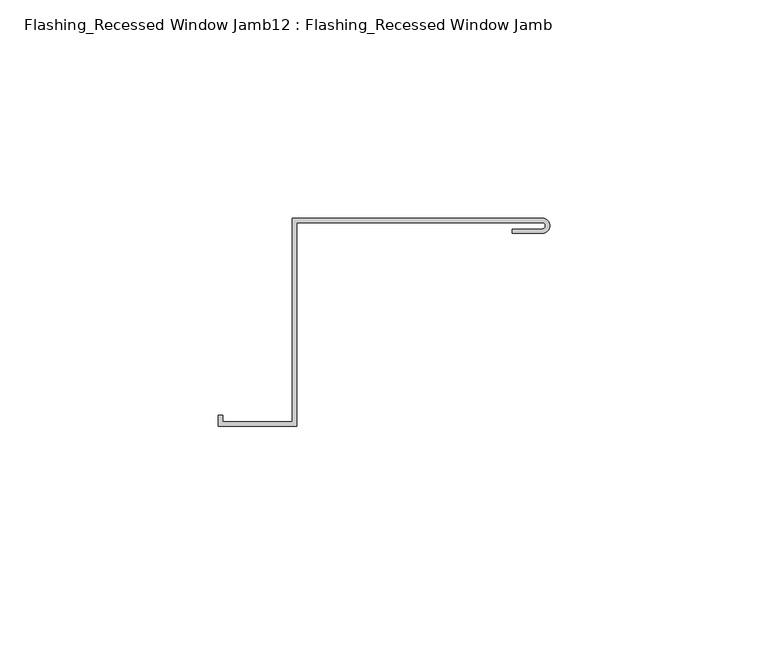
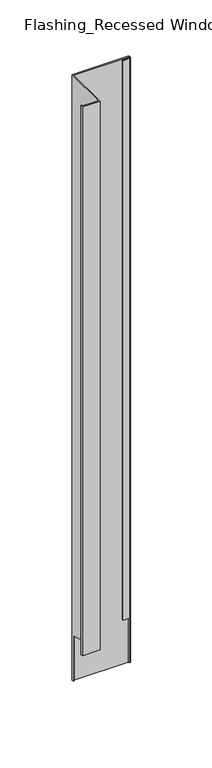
"""IFC4 building model written with IfcOpenShell, lengths in millimetres: proxy geometry, Flashing_Recessed Window Jamb12 : Flashing_Recessed Window Jamb."""

import ifcopenshell
import ifcopenshell.guid

model = None  # the IFC model being written
_history = None  # IfcOwnerHistory: only IFC2X3 demands one
_inside = {}  # id of a spatial element -> (the spatial element, [elements in it])
_under = {}  # id of a project, library or spatial element -> (it, [spatial elements below it])
_declared = {}  # id of a project -> (the project, [libraries it declares])
_typed = {}  # id of a type object -> (the type object, [elements of that type])
_made_of = {}  # id of a material, layer set ... -> (it, [elements and type objects made of it])


def new_model(schema):
    """Start an empty IFC model of exactly this schema.

    Asked for "IFC4X3", IfcOpenShell would pick the latest addendum, in which some entities
    have other attributes; the version numbers below select the first issue.
    IFC2X3 requires an IfcOwnerHistory on every rooted entity: one is made here for all.
    """
    global model, _history
    if schema == "IFC4X3":
        model = ifcopenshell.file(schema_version=(4, 3, 0, 0))
    else:
        model = ifcopenshell.file(schema=schema)
    _inside.clear()
    _under.clear()
    _declared.clear()
    _typed.clear()
    _made_of.clear()
    _history = None
    if model.schema == "IFC2X3":
        org = make("IfcOrganization", Name="unknown")
        user = make(
            "IfcPersonAndOrganization",
            ThePerson=make("IfcPerson", FamilyName="unknown"),
            TheOrganization=org,
        )
        app = make(
            "IfcApplication",
            ApplicationDeveloper=org,
            Version="unknown",
            ApplicationFullName="unknown",
            ApplicationIdentifier="unknown",
        )
        _history = make(
            "IfcOwnerHistory",
            OwningUser=user,
            OwningApplication=app,
            ChangeAction="ADDED",
            CreationDate=0,
        )
    return model


def make(cls, **values):
    """One entity of the class cls with the attributes given. An attribute that is None is left unset."""
    return model.create_entity(
        cls, **{name: value for name, value in values.items() if value is not None}
    )


def rooted(cls, **values):
    """An entity with a GlobalId (a new one), such as an element, a storey or a relation."""
    return make(cls, GlobalId=ifcopenshell.guid.new(), OwnerHistory=_history, **values)


def si_unit(unit_type, name, prefix=None):
    """IfcSIUnit, for example si_unit("LENGTHUNIT", "METRE", prefix="MILLI")."""
    return make("IfcSIUnit", UnitType=unit_type, Prefix=prefix, Name=name)


def assignment(units):
    """IfcUnitAssignment: the units of a project."""
    return None if units is None else make("IfcUnitAssignment", Units=units)


def point(xyz):
    """IfcCartesianPoint."""
    return None if xyz is None else make("IfcCartesianPoint", Coordinates=xyz)


def direction(xyz):
    """IfcDirection."""
    return None if xyz is None else make("IfcDirection", DirectionRatios=xyz)


def frame(location, z_axis=None, x_axis=None):
    """IfcAxis2Placement3D, a coordinate frame: its origin and axes. An axis left out is left unset."""
    return make(
        "IfcAxis2Placement3D",
        Location=point(location),
        Axis=direction(z_axis),
        RefDirection=direction(x_axis),
    )


def origin():
    """The frame at (0, 0, 0) with its axes left unset."""
    return frame((0.0, 0.0, 0.0))


def place(relative_to, where):
    """IfcLocalPlacement: puts the frame where relative to a parent placement (None: the world)."""
    return make(
        "IfcLocalPlacement", PlacementRelTo=relative_to, RelativePlacement=where
    )


def context(
    kind, dimensions, precision=None, world=None, true_north=None, identifier=None
):
    """IfcGeometricRepresentationContext, for example the 3D "Model" context."""
    return make(
        "IfcGeometricRepresentationContext",
        ContextIdentifier=identifier,
        ContextType=kind,
        CoordinateSpaceDimension=dimensions,
        Precision=precision,
        WorldCoordinateSystem=world,
        TrueNorth=true_north,
    )


def project(units=None, contexts=None):
    """IfcProject with its units and contexts."""
    return rooted(
        "IfcProject",
        Name="project",
        RepresentationContexts=contexts,
        UnitsInContext=assignment(units),
    )


def spatial(cls, under=None, at=None, **own):
    """A site, building, storey or space (cls), placed at a placement, below another one or the project."""
    s = rooted(cls, ObjectPlacement=at, **own)
    if under is not None:
        _under.setdefault(under.id(), (under, []))[1].append(s)
    return s


def polyline(points):
    """IfcPolyline through the points."""
    return make("IfcPolyline", Points=[point(p) for p in points])


def circle_curve(where, radius):
    """IfcCircle in the frame where."""
    return make("IfcCircle", Position=where, Radius=radius)


def ellipse_curve(where, semi_axis1, semi_axis2):
    """IfcEllipse in the frame where."""
    return make(
        "IfcEllipse", Position=where, SemiAxis1=semi_axis1, SemiAxis2=semi_axis2
    )


def shape(context_of_items, identifier, shape_type, items):
    """IfcShapeRepresentation: the items that make up one representation, for example the "Body"."""
    return make(
        "IfcShapeRepresentation",
        ContextOfItems=context_of_items,
        RepresentationIdentifier=identifier,
        RepresentationType=shape_type,
        Items=items,
    )


def source(mapping_origin, context_of_items, identifier, shape_type, items):
    """IfcRepresentationMap: a shape defined once, which mapped items show again and again."""
    return make(
        "IfcRepresentationMap",
        MappingOrigin=mapping_origin,
        MappedRepresentation=shape(context_of_items, identifier, shape_type, items),
    )


def transform(
    local_origin,
    x_axis=None,
    y_axis=None,
    z_axis=None,
    scale=None,
    scale2=None,
    scale3=None,
    uniform=True,
):
    """IfcCartesianTransformationOperator3D, or its non-uniform kind. x_axis, y_axis, z_axis: its Axis1, 2, 3."""
    if uniform:
        return make(
            "IfcCartesianTransformationOperator3D",
            Axis1=direction(x_axis),
            Axis2=direction(y_axis),
            LocalOrigin=point(local_origin),
            Scale=scale,
            Axis3=direction(z_axis),
        )
    return make(
        "IfcCartesianTransformationOperator3DnonUniform",
        Axis1=direction(x_axis),
        Axis2=direction(y_axis),
        LocalOrigin=point(local_origin),
        Scale=scale,
        Axis3=direction(z_axis),
        Scale2=scale2,
        Scale3=scale3,
    )


def mapped(mapping_source, mapping_target):
    """IfcMappedItem: shows the shape of a source again, moved by a transform."""
    return make(
        "IfcMappedItem", MappingSource=mapping_source, MappingTarget=mapping_target
    )


def made_of(thing, what):
    """Note that an element or type object is made of a material, layer set ...; save() writes the relation."""
    if what is not None:
        _made_of.setdefault(what.id(), (what, []))[1].append(thing)
    return thing


def element(
    cls,
    number,
    at=None,
    inside=None,
    cuts=None,
    type_object=None,
    material=None,
    context=None,
    identifier="Body",
    shape_type=None,
    held_by="IfcProductDefinitionShape",
    body=None,
    shapes=None,
    **own,
):
    """One element of the class cls, such as IfcWall. Its Tag is "e" and its number.

    at: its placement. inside: the storey or other place that contains it. cuts: it is an
    opening in that element (IfcRelVoidsElement). A single representation is given by context,
    identifier, shape_type and body (its items); several are given by shapes. held_by: the class
    of the entity that holds the representations. save() writes the other relations.
    """
    e = rooted(cls, Tag="e%d" % number, ObjectPlacement=at, **own)
    if body is not None:
        shapes = [shape(context, identifier, shape_type, body)]
    if shapes is not None:
        e.Representation = make(held_by, Representations=shapes)
    if inside is not None:
        _inside.setdefault(inside.id(), (inside, []))[1].append(e)
    if cuts is not None:
        rooted(
            "IfcRelVoidsElement", RelatingBuildingElement=cuts, RelatedOpeningElement=e
        )
    if type_object is not None:
        _typed.setdefault(type_object.id(), (type_object, []))[1].append(e)
    return made_of(e, material)


def aggregate(whole, parts):
    """IfcRelAggregates: a whole, such as a stair, and the parts it consists of."""
    return rooted("IfcRelAggregates", RelatingObject=whole, RelatedObjects=parts)


def save(model, path):
    """Write the relations noted so far, then the file.

    IfcRelAggregates (storeys below a building ...), IfcRelContainedInSpatialStructure (elements
    in a storey), IfcRelDefinesByType, IfcRelAssociatesMaterial and IfcRelDeclares: one each for
    every whole, place, type object, material and project.
    """
    for whole, parts in _under.values():
        aggregate(whole, parts)
    for where, things in _inside.values():
        rooted(
            "IfcRelContainedInSpatialStructure",
            RelatedElements=things,
            RelatingStructure=where,
        )
    for kind, things in _typed.values():
        rooted("IfcRelDefinesByType", RelatedObjects=things, RelatingType=kind)
    for what, things in _made_of.values():
        rooted("IfcRelAssociatesMaterial", RelatedObjects=things, RelatingMaterial=what)
    for by, libraries in _declared.values():
        rooted("IfcRelDeclares", RelatingContext=by, RelatedDefinitions=libraries)
    model.write(path)


def plane_surface(at):
    """IfcPlane: the flat surface through the origin of the frame at, square to its z axis."""
    return make("IfcPlane", Position=at)


def cylinder_surface(at, radius):
    """IfcCylindricalSurface: all points at the distance radius from the z axis of the frame at."""
    return make("IfcCylindricalSurface", Position=at, Radius=radius)


def revolved_surface(curve, axis_point, axis_direction):
    """IfcSurfaceOfRevolution: the curve turned about the line through axis_point along axis_direction."""
    return make(
        "IfcSurfaceOfRevolution",
        SweptCurve=make("IfcArbitraryOpenProfileDef", ProfileType="CURVE", Curve=curve),
        AxisPosition=make("IfcAxis1Placement", Location=point(axis_point), Axis=direction(axis_direction)),
    )


def advanced_brep(points, edges, surfaces, faces):
    """IfcAdvancedBrep: a solid bounded by faces that lie on surfaces and meet in shared edges.

    An edge is (start, end): straight between two places in points (the first is 0);
    or (start, end, curve); or (start, end, curve, False) where it runs against its curve.
    A face is (place in surfaces, loops), or (place, loops, False) where it looks against
    its surface's normal. A loop lists edges by number (the first is 1), with a minus sign
    where the edge is run from its end to its start. The first loop is the outer one.
    """
    corners = [point(p) for p in points]
    vertices = [make("IfcVertexPoint", VertexGeometry=c) for c in corners]
    made = []
    for start, end, *more in edges:
        made.append(
            make(
                "IfcEdgeCurve",
                EdgeStart=vertices[start],
                EdgeEnd=vertices[end],
                EdgeGeometry=more[0] if more else make("IfcPolyline", Points=[corners[start], corners[end]]),
                SameSense=more[1] if len(more) > 1 else True,
            )
        )
    hull = []
    for where, loops, *sense in faces:
        bounds = []
        for j, loop in enumerate(loops):
            ring = [make("IfcOrientedEdge", EdgeElement=made[abs(k) - 1], Orientation=k > 0) for k in loop]
            bounds.append(
                make(
                    "IfcFaceOuterBound" if j == 0 else "IfcFaceBound",
                    Bound=make("IfcEdgeLoop", EdgeList=ring),
                    Orientation=True,
                )
            )
        hull.append(make("IfcAdvancedFace", Bounds=bounds, FaceSurface=surfaces[where], SameSense=sense[0] if sense else True))
    return make("IfcAdvancedBrep", Outer=make("IfcClosedShell", CfsFaces=hull))


def flashing_recessed_window_jamb12_flashing_recessed_window_df369252(model_context):
    return source(origin(), model_context, "Body", "AdvancedBrep", [
        advanced_brep(
        [(8373.4615675, -23645.8591805, -27.6721404), (8316.2186679, -23645.8591805, -27.6721404), (8316.2186679, -23692.5446624, -27.6721404), (8300.1874179, -23692.5446624, -27.6721404), (8300.1874179, -23691.000184, -27.6721404), (8299.1874179, -23691.000184, -27.6721404), (8299.1874179, -23693.5446624, -27.6721404), (8317.2186679, -23693.5446624, -27.6721404), (8317.2186679, -23646.8591805, -27.6721404), (8373.4615675, -23646.8591805, -27.6721404), (8373.4615675, -23648.3453233, -27.6721404), (8366.5865675, -23648.3453233, -27.6721404), (8366.5865675, -23649.3453233, -27.6721404), (8373.4615675, -23649.3453233, -27.6721404), (8373.4615675, -23646.8591805, -688.2016371), (8317.2186679, -23646.8591805, -688.2016371), (8317.2186679, -23647.7910321, -688.2016371), (8316.2186679, -23647.7910321, -688.2016371), (8316.2186679, -23645.8591805, -688.2016371), (8373.4615675, -23645.8591805, -688.2016371), (8375.194386, -23647.7910321, -688.2016371), (8374.1802587, -23647.7910321, -688.2016371), (8316.2186679, -23647.7910321, -638.7682442), (8316.2186679, -23692.5446624, -626.7765451), (8300.1874179, -23692.5446624, -626.7765451), (8300.1874179, -23691.000184, -627.1903869), (8299.1874179, -23691.000184, -627.1903869), (8299.1874179, -23693.5446624, -626.5085959), (8317.2186679, -23693.5446624, -626.5085959), (8317.2186679, -23647.7910321, -638.7682442), (8366.5865675, -23649.3453233, -638.3517731), (8373.4615675, -23649.3453233, -638.3517731), (8366.5865675, -23648.3453233, -638.6197223), (8373.4615675, -23648.3453233, -638.6197223), (8374.1802587, -23647.7910321, -638.7682442), (8375.194386, -23647.7910321, -638.7682442)],
        [
            (0, 1),
            (1, 2),
            (2, 3),
            (3, 4),
            (4, 5),
            (5, 6),
            (6, 7),
            (7, 8),
            (8, 9),
            (9, 10, circle_curve(frame((8373.4615675, -23647.6022519, -27.6721404), z_axis=(0.0, 0.0, -1.0), x_axis=(1.0, 0.0, 0.0)), 0.7430714)),
            (10, 11),
            (11, 12),
            (12, 13),
            (13, 0, circle_curve(frame((8373.4615675, -23647.6022519, -27.6721404), z_axis=(0.0, 0.0, 1.0), x_axis=(1.0, 0.0, 0.0)), 1.7430714)),
            (14, 15),
            (15, 16),
            (16, 17),
            (17, 18),
            (18, 19),
            (19, 20, circle_curve(frame((8373.4615675, -23647.6022519, -688.2016371), z_axis=(0.0, 0.0, -1.0), x_axis=(1.0, 0.0, 0.0)), 1.7430714)),
            (20, 21),
            (21, 14, circle_curve(frame((8373.4615675, -23647.6022519, -688.2016371), z_axis=(0.0, 0.0, 1.0), x_axis=(1.0, 0.0, 0.0)), 0.7430714)),
            (0, 19),
            (18, 1),
            (17, 22),
            (22, 23),
            (23, 2),
            (23, 24),
            (24, 3),
            (24, 25),
            (25, 4),
            (25, 26),
            (26, 5),
            (26, 27),
            (27, 6),
            (27, 28),
            (28, 7),
            (28, 29),
            (29, 16),
            (15, 8),
            (14, 9),
            (12, 30),
            (30, 31),
            (31, 13),
            (11, 32),
            (32, 30),
            (10, 33),
            (33, 32),
            (21, 34),
            (34, 33, ellipse_curve(frame((8373.4615675, -23647.6022519, -638.8188277), z_axis=(0.0, -0.25881904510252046, -0.9659258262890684), x_axis=(0.0, 0.9659258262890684, -0.25881904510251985)), 0.7692841, 0.7430714)),
            (31, 35, ellipse_curve(frame((8373.4615675, -23647.6022519, -638.8188277), z_axis=(0.0, 0.25881904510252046, 0.9659258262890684), x_axis=(0.0, -0.9659258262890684, 0.25881904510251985)), 1.8045603, 1.7430714)),
            (35, 20),
            (22, 29),
            (34, 35),
        ],
        [
            plane_surface(frame((8301.2186679, -23692.5446624, -27.6721404), z_axis=(0.0, 0.0, 1.0), x_axis=(-1.0, 0.0, 0.0))),
            plane_surface(frame((8301.2186679, -23692.5446624, -688.2016371), z_axis=(0.0, 0.0, -1.0), x_axis=(1.0, 0.0, 0.0))),
            plane_surface(frame((8373.4615675, -23645.8591805, -27.6721404), z_axis=(0.0, 1.0, 0.0), x_axis=(0.0, 0.0, -1.0))),
            plane_surface(frame((8316.2186679, -23645.8591805, -27.6721404), z_axis=(-1.0, 0.0, 0.0), x_axis=(0.0, 0.0, -1.0))),
            plane_surface(frame((8316.2186679, -23692.5446624, -27.6721404), z_axis=(0.0, 1.0, 0.0), x_axis=(0.0, 0.0, -1.0))),
            plane_surface(frame((8300.1874179, -23692.5446624, -27.6721404), z_axis=(1.0, 0.0, 0.0), x_axis=(0.0, 0.0, -1.0))),
            plane_surface(frame((8300.1874179, -23691.000184, -27.6721404), z_axis=(0.0, 1.0, 0.0), x_axis=(0.0, 0.0, -1.0))),
            plane_surface(frame((8299.1874179, -23691.000184, -27.6721404), z_axis=(-1.0, 0.0, 0.0), x_axis=(0.0, 0.0, -1.0))),
            plane_surface(frame((8299.1874179, -23693.5446624, -27.6721404), z_axis=(0.0, -1.0, 0.0), x_axis=(0.0, 0.0, -1.0))),
            plane_surface(frame((8317.2186679, -23693.5446624, -27.6721404), z_axis=(1.0, 0.0, 0.0), x_axis=(0.0, 0.0, -1.0))),
            plane_surface(frame((8317.2186679, -23646.8591805, -27.6721404), z_axis=(0.0, -1.0, 0.0), x_axis=(0.0, 0.0, -1.0))),
            plane_surface(frame((8366.5865675, -23649.3453233, -27.6721404), z_axis=(0.0, -1.0, 0.0), x_axis=(0.0, 0.0, -1.0))),
            plane_surface(frame((8366.5865675, -23648.3453233, -27.6721404), z_axis=(-1.0, 0.0, 0.0), x_axis=(0.0, 0.0, -1.0))),
            plane_surface(frame((8373.4615675, -23648.3453233, -27.6721404), z_axis=(0.0, 1.0, 0.0), x_axis=(0.0, 0.0, -1.0))),
            revolved_surface(polyline([(8374.2046389, -23647.6022519, -688.2016371), (8374.2046389, -23647.6022519, -27.67214039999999)]), (8373.4615675, -23647.6022519, -688.2016371), (0.0, 0.0, -1.0)),
            cylinder_surface(frame((8373.4615675, -23647.6022519, -688.2016371), z_axis=(0.0, 0.0, 1.0), x_axis=(1.0, 0.0, 0.0)), 1.7430714),
            plane_surface(frame((8227.7740675, -24247.7910321, -477.9987287), z_axis=(0.0, -0.25881904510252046, -0.9659258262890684), x_axis=(1.0, 0.0, 0.0))),
            plane_surface(frame((8227.7740675, -23647.7910321, -638.7682442), z_axis=(0.0, -1.0, 0.0), x_axis=(1.0, 0.0, 0.0))),
        ],
        [
            (0, [[1, 2, 3, 4, 5, 6, 7, 8, 9, 10, 11, 12, 13, 14]]),
            (1, [[15, 16, 17, 18, 19, 20, 21, 22]]),
            (2, [[-1, 23, -19, 24]]),
            (3, [[-2, -24, -18, 25, 26, 27]]),
            (4, [[-3, -27, 28, 29]]),
            (5, [[-4, -29, 30, 31]]),
            (6, [[-5, -31, 32, 33]]),
            (7, [[-6, -33, 34, 35]]),
            (8, [[-7, -35, 36, 37]]),
            (9, [[-8, -37, 38, 39, -16, 40]]),
            (10, [[-9, -40, -15, 41]]),
            (11, [[-13, 42, 43, 44]]),
            (12, [[-12, 45, 46, -42]]),
            (13, [[-11, 47, 48, -45]]),
            (14, [[-10, -41, -22, 49, 50, -47]]),
            (15, [[-14, -44, 51, 52, -20, -23]]),
            (16, [[53, -38, -36, -34, -32, -30, -28, -26]]),
            (16, [[54, -51, -43, -46, -48, -50]]),
            (17, [[-53, -25, -17, -39]]),
            (17, [[-54, -49, -21, -52]]),
        ],
    ),
    ])


if __name__ == "__main__":
    model = new_model("IFC4")
    model_context = context("Model", 3, world=origin())
    ifc_project = project(units=[si_unit("LENGTHUNIT", "METRE", prefix="MILLI")], contexts=[model_context])
    site = spatial("IfcSite", under=ifc_project)
    building = spatial("IfcBuilding", under=site)
    placement = place(None, origin())
    flashing_recessed_window_jamb12_flashing_recessed_window_shape = flashing_recessed_window_jamb12_flashing_recessed_window_df369252(model_context)
    element("IfcBuildingElementProxy", 1, Name="Flashing_Recessed Window Jamb12 : Flashing_Recessed Window Jamb", ObjectType="Flashing_Recessed Window Jamb12 : Flashing_Recessed Window Jamb", at=placement, inside=building, context=model_context, shape_type="MappedRepresentation", body=[
        mapped(flashing_recessed_window_jamb12_flashing_recessed_window_shape, transform((0.0, 0.0, 0.0), x_axis=(1.0, 0.0, 0.0), y_axis=(0.0, 1.0, 0.0), z_axis=(0.0, 0.0, 1.0))),
    ])
    save(model, "model.ifc")
